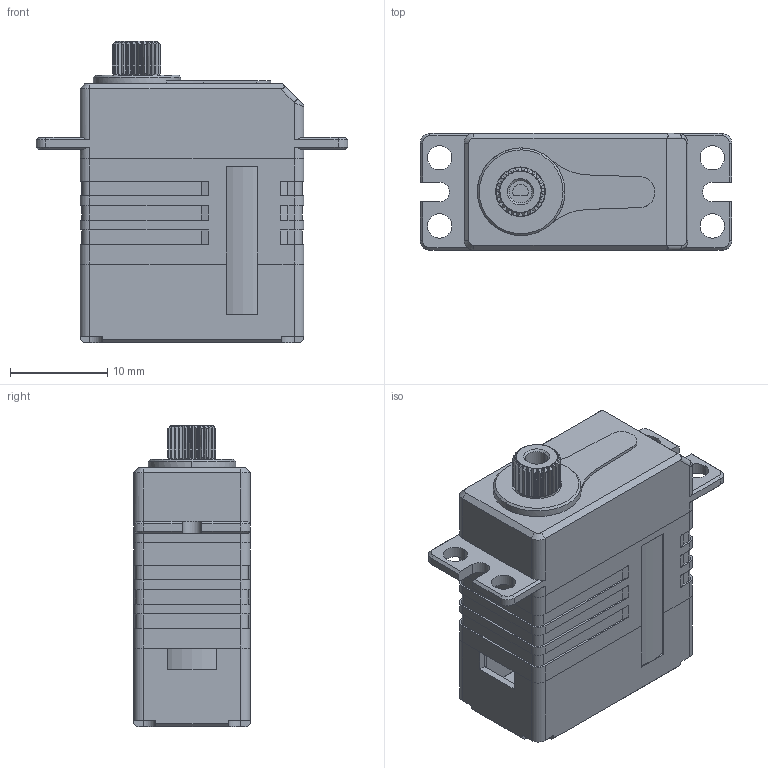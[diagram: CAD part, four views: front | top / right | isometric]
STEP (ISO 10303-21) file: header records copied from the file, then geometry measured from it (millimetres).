
FILE_DESCRIPTION (( 'STEP AP214' ), '1' );
FILE_NAME ('X12-708_DM_20221118.STEP', '2022-11-18T05:54:55', ( '微软用户' ), ( '微软中国' ), 'SwSTEP 2.0', 'SolidWorks 2016', '' );
FILE_SCHEMA (( 'AUTOMOTIVE_DESIGN' ));
Length unit declared in the file: millimetre
Products named in the file (1): X12-708_DM_20221118
Bounding box: 32 x 12 x 31 mm (x, y, z)
Surface area: 4124.4 mm2 (no closed solid volume)
Topology: 0 solids, 8 shells, 460 faces, 1530 edges, 1030 vertices
Faces by surface type: cylinder 200, plane 152, cone 56, bspline 52
Entity records: 23231 total; most frequent: CARTESIAN_POINT 5127, DIRECTION 2721, ORIENTED_EDGE 2611, EDGE_CURVE 1530, VERTEX_POINT 1030, AXIS2_PLACEMENT_3D 1003, LINE 715, VECTOR 715
